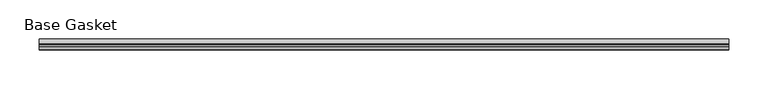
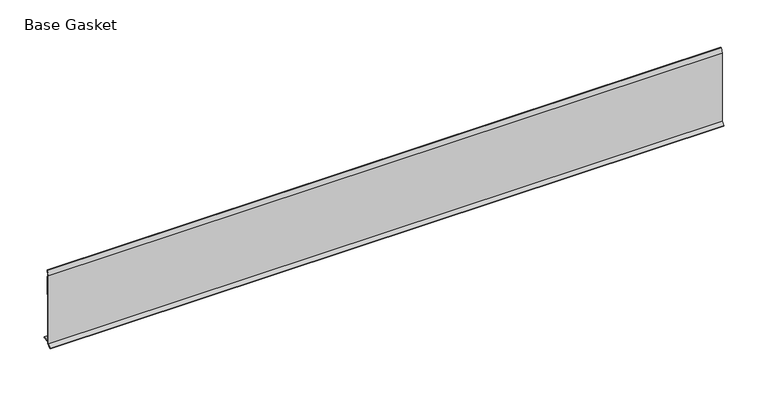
"""IFC4 building model written with IfcOpenShell, lengths in millimetres: furniture geometry, Gasket-Teknion-FHGB-AI_Healthcare-R2021 : Base Gasket."""

from ifc_helpers import new_model, si_unit, frame, origin, place, context, project, spatial, polyline, outline, extrude, source, transform, mapped, element, save


def base_gasket_ad156c7d(model_context):
    return source(origin(), model_context, "Body", "SweptSolid", [
        extrude(outline(polyline([(-3.7283812, 98.4568417), (-1.1891543, 104.587663), (-0.6755308, 105.2002997), (-0.6755308, 104.4162708), (-2.2043812, 98.4568417), (-2.2043812, 96.8693477), (-1.4106313, 96.8693477), (-1.4106313, 71.4693447), (-2.2043812, 71.4693447), (-2.2043812, 7.9398773), (6.2405171, 7.9398773), (6.2405171, 6.3818476), (-2.1334222, 6.3818476), (-2.2043812, 4.3498477), (-6.8281054, 0.3520979), (-7.8482342, 0.0), (-7.4222115, 0.6560174), (-3.7283812, 4.3498477), (-3.7283812, 98.4568417)])), frame((-1527.8982117, 0.0, 0.0), z_axis=(1.0, 0.0, 0.0), x_axis=(0.0, 1.0, 0.0)), (0.0, 0.0, 1.0), 882.7691795),
    ])


if __name__ == "__main__":
    model = new_model("IFC4")
    model_context = context("Model", 3, world=origin())
    ifc_project = project(units=[si_unit("LENGTHUNIT", "METRE", prefix="MILLI")], contexts=[model_context])
    site = spatial("IfcSite", under=ifc_project)
    building = spatial("IfcBuilding", under=site)
    placement = place(None, origin())
    base_gasket_shape = base_gasket_ad156c7d(model_context)
    element("IfcFurniture", 1, ObjectType="Gasket-Teknion-FHGB-AI_Healthcare-R2021 : Base Gasket", at=placement, inside=building, context=model_context, shape_type="MappedRepresentation", body=[
        mapped(base_gasket_shape, transform((0.0, 0.0, 0.0), x_axis=(1.0, 0.0, 0.0), y_axis=(0.0, 1.0, 0.0), z_axis=(0.0, 0.0, 1.0))),
    ])
    save(model, "model.ifc")
